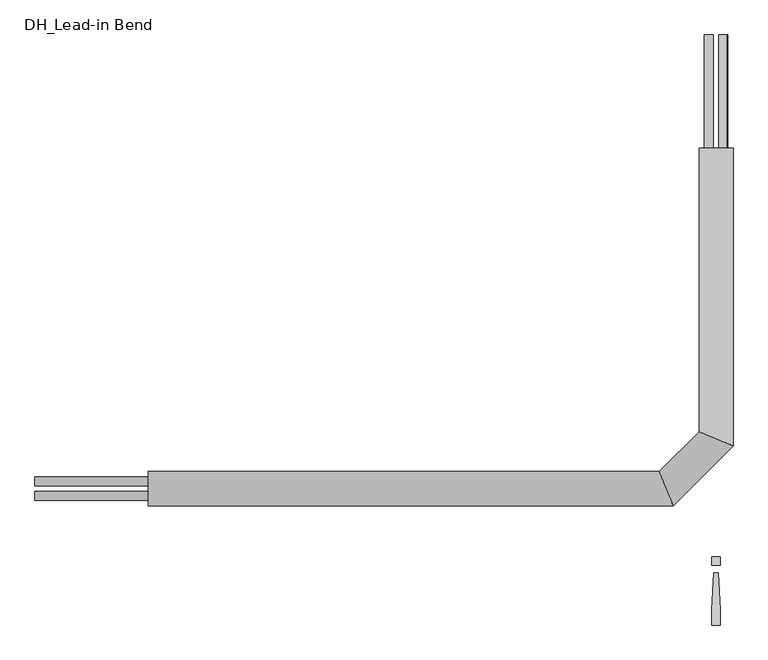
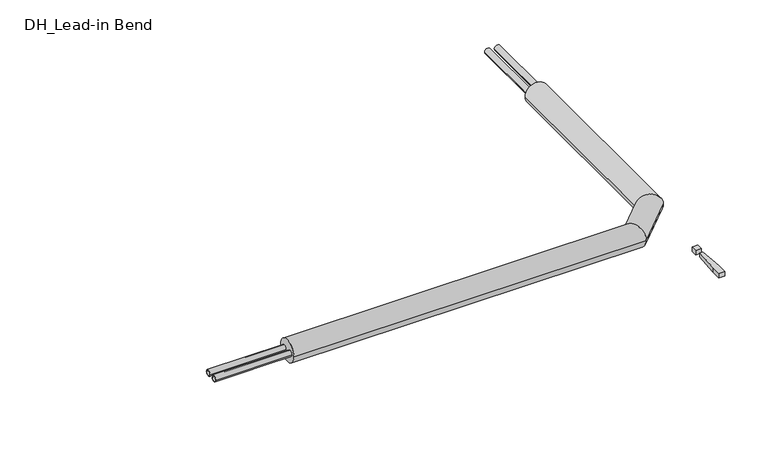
"""IFC4 building model written with IfcOpenShell, lengths in millimetres: pipe fitting geometry, DH_Lead-in Bend : INSULPEX DUO 11 Heating Vertical."""

from ifc_helpers import new_model, si_unit, point, frame, frame_2d, origin, origin_with_axes, place, context, project, spatial, polyline, circle_curve, ellipse_curve, trimmed, segment, composite_curve, outline, extrude, source, transform, mapped, element, save
from ifc_brep_helpers import plane_surface, cylinder_surface, advanced_brep


def dh_lead_in_bend_075c296f(model_context):
    return source(origin(), model_context, "Body", "SolidModel", [
        extrude(outline(composite_curve([segment(trimmed(circle_curve(frame_2d((-16.0, 0.0)), 10.0), [point((-6.0, 0.0))], [point((-26.0, 0.0))], False, "CARTESIAN"), True, "CONTINUOUS"), segment(trimmed(circle_curve(frame_2d((-16.0, 0.0)), 10.0), [point((-26.0, 0.0))], [point((-6.0, 0.0))], False, "CARTESIAN"), True, "CONTINUOUS")], self_intersect=False), holes=[composite_curve([segment(trimmed(circle_curve(frame_2d((-16.0, 0.0)), 8.1), [point((-7.9, 0.0))], [point((-24.1, 0.0))], True, "CARTESIAN"), True, "CONTINUOUS"), segment(trimmed(circle_curve(frame_2d((-16.0, 0.0)), 8.1), [point((-24.1, 0.0))], [point((-7.9, 0.0))], True, "CARTESIAN"), True, "CONTINUOUS")], self_intersect=False)]), frame((-1500.0, 0.0, 0.0), z_axis=(1.0, 0.0, 0.0), x_axis=(0.0, 1.0, 0.0)), (0.0, 0.0, 1.0), 250.0),
        advanced_brep(
        [(-1250.0, -37.5, 0.0), (-1250.0, 37.5, 0.0), (-94.4669914, -37.5, 0.0), (-125.5330086, 37.5, 0.0), (37.5, 750.0, 0.0), (-37.5, 750.0, 0.0), (-37.5, 125.5330086, 0.0), (37.5, 94.4669914, 0.0)],
        [
            (0, 1, circle_curve(frame((-1250.0, 0.0, 0.0), z_axis=(-1.0, 0.0, 0.0), x_axis=(0.0, 1.0, 0.0)), 37.5)),
            (1, 0, circle_curve(frame((-1250.0, 0.0, 0.0), z_axis=(-1.0, 0.0, 0.0), x_axis=(0.0, 1.0, 0.0)), 37.5)),
            (0, 2),
            (2, 3, ellipse_curve(frame((-110.0, 0.0, 0.0), z_axis=(-0.9238795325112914, -0.3826834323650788, 0.0), x_axis=(-0.38268343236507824, 0.9238795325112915, 0.0)), 40.5897075, 37.5)),
            (3, 1),
            (3, 2, ellipse_curve(frame((-110.0, 0.0, 0.0), z_axis=(-0.9238795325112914, -0.3826834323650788, 0.0), x_axis=(-0.38268343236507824, 0.9238795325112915, 0.0)), 40.5897075, 37.5)),
            (4, 5, circle_curve(frame((0.0, 750.0, 0.0), z_axis=(0.0, 1.0, 0.0), x_axis=(-1.0, 0.0, 0.0)), 37.5)),
            (5, 4, circle_curve(frame((0.0, 750.0, 0.0), z_axis=(0.0, 1.0, 0.0), x_axis=(-1.0, 0.0, 0.0)), 37.5)),
            (6, 7, ellipse_curve(frame((0.0, 110.0, 0.0), z_axis=(0.38268343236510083, 0.9238795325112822, 0.0), x_axis=(0.9238795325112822, -0.3826834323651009, 0.0)), 40.5897075, 37.5)),
            (7, 4),
            (5, 6),
            (7, 6, ellipse_curve(frame((0.0, 110.0, 0.0), z_axis=(0.38268343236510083, 0.9238795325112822, 0.0), x_axis=(0.9238795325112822, -0.3826834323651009, 0.0)), 40.5897075, 37.5)),
            (2, 7),
            (6, 3),
        ],
        [
            plane_surface(frame((-1250.0, 0.0, 0.0), z_axis=(-1.0, 0.0, 0.0), x_axis=(0.0, 0.0, 1.0))),
            cylinder_surface(frame((-1250.0, 0.0, 0.0), z_axis=(-1.0, 0.0, 0.0), x_axis=(0.0, 1.0, 0.0)), 37.5),
            plane_surface(frame((0.0, 750.0, 0.0), z_axis=(0.0, 1.0, 0.0), x_axis=(0.0, 0.0, 1.0))),
            cylinder_surface(frame((0.0, 110.0, 0.0), z_axis=(0.0, -1.0, 0.0), x_axis=(-1.0, 0.0, 0.0)), 37.5),
            cylinder_surface(frame((-110.0, 0.0, 0.0), z_axis=(-0.7071067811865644, -0.7071067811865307, 0.0), x_axis=(-0.7071067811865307, 0.7071067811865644, 0.0)), 37.5),
        ],
        [
            (0, [[1, 2]]),
            (1, [[-1, 3, 4, 5]]),
            (1, [[-2, -5, 6, -3]]),
            (2, [[7, 8]]),
            (3, [[9, 10, -8, 11]]),
            (3, [[12, -11, -7, -10]]),
            (4, [[-4, 13, -9, 14]]),
            (4, [[-6, -14, -12, -13]]),
        ],
    ),
        extrude(outline(composite_curve([segment(trimmed(circle_curve(frame_2d((0.0, -16.0)), 10.0), [point((0.0, -6.0))], [point((0.0, -26.0))], False, "CARTESIAN"), True, "CONTINUOUS"), segment(trimmed(circle_curve(frame_2d((0.0, -16.0)), 10.0), [point((0.0, -26.0))], [point((0.0, -6.0))], False, "CARTESIAN"), True, "CONTINUOUS")], self_intersect=False), holes=[composite_curve([segment(trimmed(circle_curve(frame_2d((0.0, -16.0)), 8.1), [point((0.0, -7.9))], [point((0.0, -24.1))], True, "CARTESIAN"), True, "CONTINUOUS"), segment(trimmed(circle_curve(frame_2d((0.0, -16.0)), 8.1), [point((0.0, -24.1))], [point((0.0, -7.9))], True, "CARTESIAN"), True, "CONTINUOUS")], self_intersect=False)]), frame((0.0, 750.0, 0.0), z_axis=(0.0, 1.0, 0.0), x_axis=(0.0, 0.0, 1.0)), (0.0, 0.0, 1.0), 250.0),
        extrude(outline(composite_curve([segment(trimmed(circle_curve(frame_2d((16.0, 0.0)), 10.0), [point((6.0, 0.0))], [point((26.0, 0.0))], False, "CARTESIAN"), True, "CONTINUOUS"), segment(trimmed(circle_curve(frame_2d((16.0, 0.0)), 10.0), [point((26.0, 0.0))], [point((6.0, 0.0))], False, "CARTESIAN"), True, "CONTINUOUS")], self_intersect=False), holes=[composite_curve([segment(trimmed(circle_curve(frame_2d((16.0, 0.0)), 8.1), [point((7.9, 0.0))], [point((24.1, 0.0))], True, "CARTESIAN"), True, "CONTINUOUS"), segment(trimmed(circle_curve(frame_2d((16.0, 0.0)), 8.1), [point((24.1, 0.0))], [point((7.9, 0.0))], True, "CARTESIAN"), True, "CONTINUOUS")], self_intersect=False)]), frame((-1500.0, 0.0, 0.0), z_axis=(1.0, 0.0, 0.0), x_axis=(0.0, 1.0, 0.0)), (0.0, 0.0, 1.0), 250.0),
        extrude(outline(composite_curve([segment(trimmed(circle_curve(frame_2d((0.0, 16.0)), 10.0), [point((0.0, 6.0))], [point((0.0, 26.0))], False, "CARTESIAN"), True, "CONTINUOUS"), segment(trimmed(circle_curve(frame_2d((0.0, 16.0)), 10.0), [point((0.0, 26.0))], [point((0.0, 6.0))], False, "CARTESIAN"), True, "CONTINUOUS")], self_intersect=False), holes=[composite_curve([segment(trimmed(circle_curve(frame_2d((0.0, 16.0)), 8.1), [point((0.0, 7.9))], [point((0.0, 24.1))], True, "CARTESIAN"), True, "CONTINUOUS"), segment(trimmed(circle_curve(frame_2d((0.0, 16.0)), 8.1), [point((0.0, 24.1))], [point((0.0, 7.9))], True, "CARTESIAN"), True, "CONTINUOUS")], self_intersect=False)]), frame((0.0, 750.0, 0.0), z_axis=(0.0, 1.0, 0.0), x_axis=(0.0, 0.0, 1.0)), (0.0, 0.0, 1.0), 250.0),
        extrude(outline(polyline([(4.7088895, -185.3166715), (9.4177791, -266.6553807), (9.4177791, -300.6844652), (-9.4177791, -300.6844652), (-9.4177791, -266.6553807), (-4.7088895, -185.3166715), (4.7088895, -185.3166715)])), origin_with_axes(), (0.0, 0.0, 1.0), 15.0),
        extrude(outline(polyline([(9.4177791, -150.0), (9.4177791, -168.8355582), (-9.4177791, -168.8355582), (-9.4177791, -150.0), (9.4177791, -150.0)])), origin_with_axes(), (0.0, 0.0, 1.0), 15.0),
    ])


if __name__ == "__main__":
    model = new_model("IFC4")
    model_context = context("Model", 3, world=origin())
    ifc_project = project(units=[si_unit("LENGTHUNIT", "METRE", prefix="MILLI")], contexts=[model_context])
    site = spatial("IfcSite", under=ifc_project)
    building = spatial("IfcBuilding", under=site)
    placement = place(None, origin())
    dh_lead_in_bend_shape = dh_lead_in_bend_075c296f(model_context)
    element("IfcPipeFitting", 1, ObjectType="DH_Lead-in Bend : INSULPEX DUO 11 Heating Vertical", at=placement, inside=building, context=model_context, shape_type="MappedRepresentation", body=[
        mapped(dh_lead_in_bend_shape, transform((0.0, 0.0, 0.0), x_axis=(1.0, 0.0, 0.0), y_axis=(0.0, 1.0, 0.0), z_axis=(0.0, 0.0, 1.0))),
    ])
    save(model, "model.ifc")
